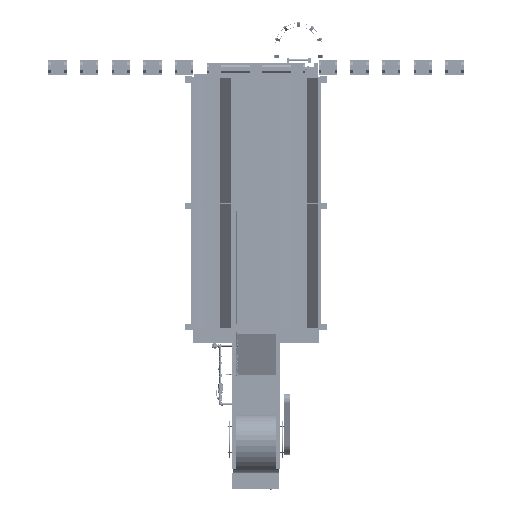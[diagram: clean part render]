
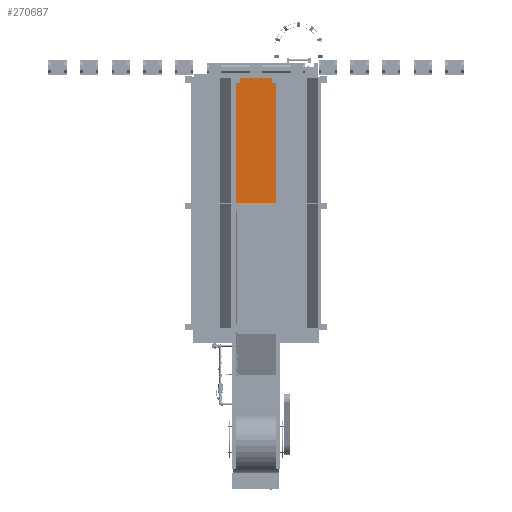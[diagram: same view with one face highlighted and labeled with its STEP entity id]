
A CAD part, front view. The second image highlights one B-rep face of the part: STEP entity #270687.
In plain terms, the highlighted planar face has unit normal (0, -1, 0) as drawn and (0, 0, -1) by its records, which use the part's own axes.
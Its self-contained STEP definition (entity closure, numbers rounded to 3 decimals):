
#42314=FACE_OUTER_BOUND('',#57892,.T.);
#57892=EDGE_LOOP('',(#184283,#184284,#184285,#184286));
#75272=LINE('',#384137,#96726);
#75275=LINE('',#384143,#96729);
#75341=LINE('',#384281,#96795);
#75342=LINE('',#384282,#96796);
#96726=VECTOR('',#312755,0.394);
#96729=VECTOR('',#312760,0.394);
#96795=VECTOR('',#312850,0.394);
#96796=VECTOR('',#312851,0.394);
#118109=VERTEX_POINT('',#384130);
#118112=VERTEX_POINT('',#384135);
#118113=VERTEX_POINT('',#384139);
#118174=VERTEX_POINT('',#384280);
#143813=EDGE_CURVE('',#118112,#118109,#75272,.T.);
#143816=EDGE_CURVE('',#118109,#118113,#75275,.T.);
#143882=EDGE_CURVE('',#118174,#118113,#75341,.T.);
#143883=EDGE_CURVE('',#118174,#118112,#75342,.T.);
#184283=ORIENTED_EDGE('',*,*,#143882,.T.);
#184284=ORIENTED_EDGE('',*,*,#143816,.F.);
#184285=ORIENTED_EDGE('',*,*,#143813,.F.);
#184286=ORIENTED_EDGE('',*,*,#143883,.F.);
#263982=PLANE('',#287540);
#270687=ADVANCED_FACE('',(#42314),#263982,.F.);
#287540=AXIS2_PLACEMENT_3D('',#384279,#312848,#312849);
#312755=DIRECTION('',(0.,-1.,0.));
#312760=DIRECTION('',(1.,0.,0.));
#312848=DIRECTION('center_axis',(0.,0.,1.));
#312849=DIRECTION('ref_axis',(1.,0.,0.));
#312850=DIRECTION('',(0.,-1.,0.));
#312851=DIRECTION('',(-1.,0.,0.));
#384130=CARTESIAN_POINT('',(-288.,-47.25,0.));
#384135=CARTESIAN_POINT('',(-288.,47.25,0.));
#384137=CARTESIAN_POINT('',(-288.,47.25,0.));
#384139=CARTESIAN_POINT('',(-192.004,-47.25,0.));
#384143=CARTESIAN_POINT('',(-288.,-47.25,0.));
#384279=CARTESIAN_POINT('Origin',(-144.,0.,0.));
#384280=CARTESIAN_POINT('',(-192.004,47.25,0.));
#384281=CARTESIAN_POINT('',(-192.004,2.638,0.));
#384282=CARTESIAN_POINT('',(0.,47.25,0.));
